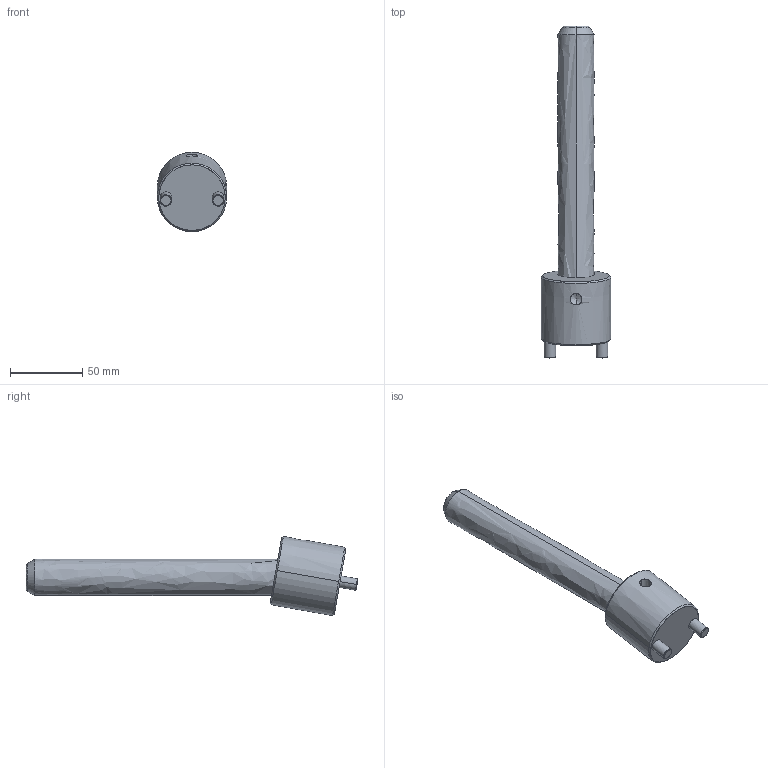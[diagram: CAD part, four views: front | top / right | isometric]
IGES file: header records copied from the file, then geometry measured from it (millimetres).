
Start section: START RECORD GO HERE.
Global section: file name: CI1025175.igs; native system: DASSAULT SYSTEMES CATIA V5 R20 - www.3ds.com; preprocessor: CATIA Version 5 Release 20 ; author: r.borello; organization: CFTORINO; date: 20190621.155813; units: millimetre
Bounding box: 48 x 229.61 x 54.74 mm (x, y, z)
Surface area: 31347.2 mm2 (no closed solid volume)
Topology: 0 solids, 0 shells, 39 faces, 162 edges, 160 vertices
Faces by surface type: revolution 32, plane 7
